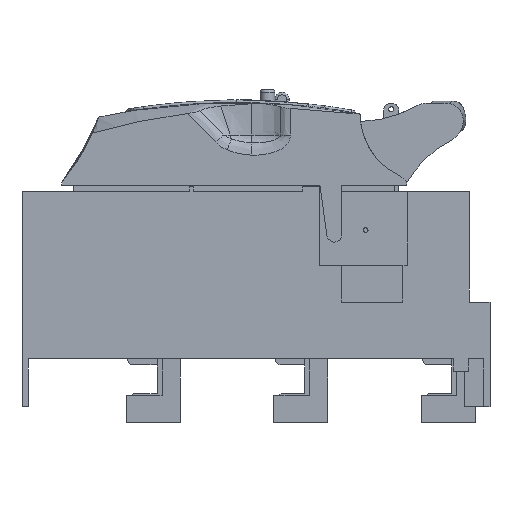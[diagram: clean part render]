
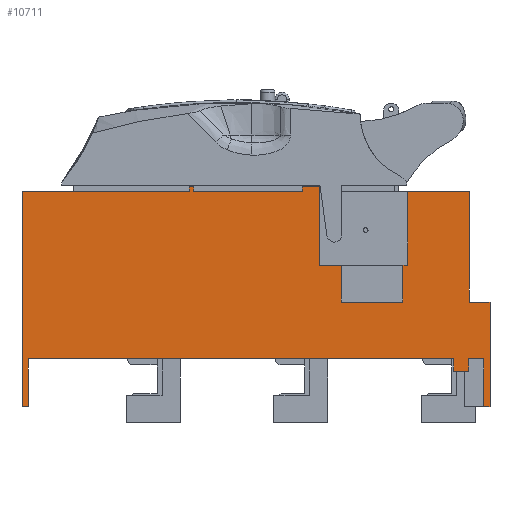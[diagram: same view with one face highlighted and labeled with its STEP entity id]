
A CAD part, front view. The second image highlights one B-rep face of the part: STEP entity #10711.
In plain terms, the highlighted planar face has unit normal (0, -1, 0).
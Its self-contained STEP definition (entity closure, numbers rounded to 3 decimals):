
#8563=FACE_OUTER_BOUND('',#12767,.T.);
#9753=PLANE('',#30881);
#10711=ADVANCED_FACE('',(#8563),#9753,.F.);
#12767=EDGE_LOOP('',(#17968,#17969,#17970,#17971,#17972,#17973,#17974,#17975,
#17976,#17977,#17978,#17979,#17980,#17981,#17982,#17983,#17984,#17985,#17986,
#17987,#17988,#17989,#17990,#17991,#17992,#17993,#17994,#17995));
#14054=LINE('',#39794,#15699);
#14060=LINE('',#39806,#15705);
#14143=LINE('',#39977,#15788);
#14145=LINE('',#39981,#15790);
#14146=LINE('',#39983,#15791);
#14147=LINE('',#39985,#15792);
#14148=LINE('',#39986,#15793);
#14149=LINE('',#39988,#15794);
#14150=LINE('',#39990,#15795);
#14151=LINE('',#39992,#15796);
#14152=LINE('',#39994,#15797);
#14153=LINE('',#39996,#15798);
#14154=LINE('',#39998,#15799);
#14155=LINE('',#40000,#15800);
#14156=LINE('',#40002,#15801);
#14157=LINE('',#40004,#15802);
#14158=LINE('',#40006,#15803);
#14159=LINE('',#40008,#15804);
#14160=LINE('',#40010,#15805);
#14161=LINE('',#40012,#15806);
#14162=LINE('',#40014,#15807);
#14163=LINE('',#40016,#15808);
#14164=LINE('',#40018,#15809);
#14165=LINE('',#40020,#15810);
#14166=LINE('',#40022,#15811);
#14167=LINE('',#40024,#15812);
#14168=LINE('',#40026,#15813);
#14169=LINE('',#40028,#15814);
#15699=VECTOR('',#32850,1.);
#15705=VECTOR('',#32856,1.);
#15788=VECTOR('',#32991,1.);
#15790=VECTOR('',#32995,1.);
#15791=VECTOR('',#32996,1.);
#15792=VECTOR('',#32997,1.);
#15793=VECTOR('',#32998,1.);
#15794=VECTOR('',#32999,1.);
#15795=VECTOR('',#33000,1.);
#15796=VECTOR('',#33001,1.);
#15797=VECTOR('',#33002,1.);
#15798=VECTOR('',#33003,1.);
#15799=VECTOR('',#33004,1.);
#15800=VECTOR('',#33005,1.);
#15801=VECTOR('',#33006,1.);
#15802=VECTOR('',#33007,1.);
#15803=VECTOR('',#33008,1.);
#15804=VECTOR('',#33009,1.);
#15805=VECTOR('',#33010,1.);
#15806=VECTOR('',#33011,1.);
#15807=VECTOR('',#33012,1.);
#15808=VECTOR('',#33013,1.);
#15809=VECTOR('',#33014,1.);
#15810=VECTOR('',#33015,1.);
#15811=VECTOR('',#33016,1.);
#15812=VECTOR('',#33017,1.);
#15813=VECTOR('',#33018,1.);
#15814=VECTOR('',#33019,1.);
#17968=ORIENTED_EDGE('',*,*,#27077,.T.);
#17969=ORIENTED_EDGE('',*,*,#26992,.T.);
#17970=ORIENTED_EDGE('',*,*,#27079,.F.);
#17971=ORIENTED_EDGE('',*,*,#27080,.F.);
#17972=ORIENTED_EDGE('',*,*,#27081,.T.);
#17973=ORIENTED_EDGE('',*,*,#26986,.T.);
#17974=ORIENTED_EDGE('',*,*,#27082,.F.);
#17975=ORIENTED_EDGE('',*,*,#27083,.F.);
#17976=ORIENTED_EDGE('',*,*,#27084,.F.);
#17977=ORIENTED_EDGE('',*,*,#27085,.F.);
#17978=ORIENTED_EDGE('',*,*,#27086,.F.);
#17979=ORIENTED_EDGE('',*,*,#27087,.F.);
#17980=ORIENTED_EDGE('',*,*,#27088,.F.);
#17981=ORIENTED_EDGE('',*,*,#27089,.T.);
#17982=ORIENTED_EDGE('',*,*,#27090,.T.);
#17983=ORIENTED_EDGE('',*,*,#27091,.F.);
#17984=ORIENTED_EDGE('',*,*,#27092,.T.);
#17985=ORIENTED_EDGE('',*,*,#27093,.T.);
#17986=ORIENTED_EDGE('',*,*,#27094,.T.);
#17987=ORIENTED_EDGE('',*,*,#27095,.T.);
#17988=ORIENTED_EDGE('',*,*,#27096,.T.);
#17989=ORIENTED_EDGE('',*,*,#27097,.F.);
#17990=ORIENTED_EDGE('',*,*,#27098,.F.);
#17991=ORIENTED_EDGE('',*,*,#27099,.T.);
#17992=ORIENTED_EDGE('',*,*,#27100,.T.);
#17993=ORIENTED_EDGE('',*,*,#27101,.F.);
#17994=ORIENTED_EDGE('',*,*,#27102,.F.);
#17995=ORIENTED_EDGE('',*,*,#27103,.F.);
#24706=VERTEX_POINT('',#39793);
#24707=VERTEX_POINT('',#39795);
#24712=VERTEX_POINT('',#39805);
#24713=VERTEX_POINT('',#39807);
#24775=VERTEX_POINT('',#39978);
#24776=VERTEX_POINT('',#39982);
#24777=VERTEX_POINT('',#39984);
#24778=VERTEX_POINT('',#39987);
#24779=VERTEX_POINT('',#39989);
#24780=VERTEX_POINT('',#39991);
#24781=VERTEX_POINT('',#39993);
#24782=VERTEX_POINT('',#39995);
#24783=VERTEX_POINT('',#39997);
#24784=VERTEX_POINT('',#39999);
#24785=VERTEX_POINT('',#40001);
#24786=VERTEX_POINT('',#40003);
#24787=VERTEX_POINT('',#40005);
#24788=VERTEX_POINT('',#40007);
#24789=VERTEX_POINT('',#40009);
#24790=VERTEX_POINT('',#40011);
#24791=VERTEX_POINT('',#40013);
#24792=VERTEX_POINT('',#40015);
#24793=VERTEX_POINT('',#40017);
#24794=VERTEX_POINT('',#40019);
#24795=VERTEX_POINT('',#40021);
#24796=VERTEX_POINT('',#40023);
#24797=VERTEX_POINT('',#40025);
#24798=VERTEX_POINT('',#40027);
#26986=EDGE_CURVE('',#24707,#24706,#14054,.T.);
#26992=EDGE_CURVE('',#24713,#24712,#14060,.T.);
#27077=EDGE_CURVE('',#24775,#24713,#14143,.T.);
#27079=EDGE_CURVE('',#24776,#24712,#14145,.T.);
#27080=EDGE_CURVE('',#24777,#24776,#14146,.T.);
#27081=EDGE_CURVE('',#24777,#24707,#14147,.T.);
#27082=EDGE_CURVE('',#24778,#24706,#14148,.T.);
#27083=EDGE_CURVE('',#24779,#24778,#14149,.T.);
#27084=EDGE_CURVE('',#24780,#24779,#14150,.T.);
#27085=EDGE_CURVE('',#24781,#24780,#14151,.T.);
#27086=EDGE_CURVE('',#24782,#24781,#14152,.T.);
#27087=EDGE_CURVE('',#24783,#24782,#14153,.T.);
#27088=EDGE_CURVE('',#24784,#24783,#14154,.T.);
#27089=EDGE_CURVE('',#24784,#24785,#14155,.T.);
#27090=EDGE_CURVE('',#24785,#24786,#14156,.T.);
#27091=EDGE_CURVE('',#24787,#24786,#14157,.T.);
#27092=EDGE_CURVE('',#24787,#24788,#14158,.T.);
#27093=EDGE_CURVE('',#24788,#24789,#14159,.T.);
#27094=EDGE_CURVE('',#24789,#24790,#14160,.T.);
#27095=EDGE_CURVE('',#24790,#24791,#14161,.T.);
#27096=EDGE_CURVE('',#24791,#24792,#14162,.T.);
#27097=EDGE_CURVE('',#24793,#24792,#14163,.T.);
#27098=EDGE_CURVE('',#24794,#24793,#14164,.T.);
#27099=EDGE_CURVE('',#24794,#24795,#14165,.T.);
#27100=EDGE_CURVE('',#24795,#24796,#14166,.T.);
#27101=EDGE_CURVE('',#24797,#24796,#14167,.T.);
#27102=EDGE_CURVE('',#24798,#24797,#14168,.T.);
#27103=EDGE_CURVE('',#24775,#24798,#14169,.T.);
#30881=AXIS2_PLACEMENT_3D('',#40029,#33020,#33021);
#32850=DIRECTION('',(1.,0.,0.));
#32856=DIRECTION('',(1.,0.,0.));
#32991=DIRECTION('',(0.,0.,1.));
#32995=DIRECTION('',(0.,0.,1.));
#32996=DIRECTION('',(-1.,0.,0.));
#32997=DIRECTION('',(0.,0.,1.));
#32998=DIRECTION('',(0.,0.,1.));
#32999=DIRECTION('',(-1.,0.,0.));
#33000=DIRECTION('',(0.,0.,-1.));
#33001=DIRECTION('',(1.,0.,0.));
#33002=DIRECTION('',(0.,0.,-1.));
#33003=DIRECTION('',(1.,0.,0.));
#33004=DIRECTION('',(0.,0.,1.));
#33005=DIRECTION('',(-1.,0.,0.));
#33006=DIRECTION('',(0.,0.,-1.));
#33007=DIRECTION('',(1.,0.,0.));
#33008=DIRECTION('',(0.,0.,1.));
#33009=DIRECTION('',(-1.,0.,0.));
#33010=DIRECTION('',(0.,0.,1.));
#33011=DIRECTION('',(-1.,0.,0.));
#33012=DIRECTION('',(0.,0.,-1.));
#33013=DIRECTION('',(1.,0.,0.));
#33014=DIRECTION('',(0.,0.,-1.));
#33015=DIRECTION('',(-1.,0.,0.));
#33016=DIRECTION('',(0.,0.,-1.));
#33017=DIRECTION('',(1.,0.,0.));
#33018=DIRECTION('',(0.,0.,1.));
#33019=DIRECTION('',(-1.,0.,0.));
#33020=DIRECTION('',(0.,1.,0.));
#33021=DIRECTION('',(0.,0.,1.));
#39793=CARTESIAN_POINT('',(157.087,-44.481,0.));
#39794=CARTESIAN_POINT('',(-0.413,-44.481,0.));
#39795=CARTESIAN_POINT('',(150.887,-44.481,0.));
#39805=CARTESIAN_POINT('',(144.887,-44.481,0.));
#39806=CARTESIAN_POINT('',(-0.413,-44.481,0.));
#39807=CARTESIAN_POINT('',(-28.313,-44.481,0.));
#39977=CARTESIAN_POINT('',(-28.313,-44.481,-19.5));
#39978=CARTESIAN_POINT('',(-28.313,-44.481,-19.5));
#39981=CARTESIAN_POINT('',(144.887,-44.481,-5.));
#39982=CARTESIAN_POINT('',(144.887,-44.481,-5.));
#39983=CARTESIAN_POINT('',(144.887,-44.481,-5.));
#39984=CARTESIAN_POINT('',(150.887,-44.481,-5.));
#39985=CARTESIAN_POINT('',(150.887,-44.481,-5.));
#39986=CARTESIAN_POINT('',(157.087,-44.481,-74.983));
#39987=CARTESIAN_POINT('',(157.087,-44.481,-19.5));
#39988=CARTESIAN_POINT('',(157.087,-44.481,-19.5));
#39989=CARTESIAN_POINT('',(159.587,-44.481,-19.5));
#39990=CARTESIAN_POINT('',(159.587,-44.481,23.1));
#39991=CARTESIAN_POINT('',(159.587,-44.481,23.1));
#39992=CARTESIAN_POINT('',(-0.413,-44.481,23.1));
#39993=CARTESIAN_POINT('',(151.087,-44.481,23.1));
#39994=CARTESIAN_POINT('',(151.087,-44.481,68.1));
#39995=CARTESIAN_POINT('',(151.087,-44.481,68.1));
#39996=CARTESIAN_POINT('',(151.087,-44.481,68.1));
#39997=CARTESIAN_POINT('',(126.087,-44.481,68.1));
#39998=CARTESIAN_POINT('',(126.087,-44.481,68.1));
#39999=CARTESIAN_POINT('',(126.087,-44.481,38.1));
#40000=CARTESIAN_POINT('',(126.087,-44.481,38.1));
#40001=CARTESIAN_POINT('',(124.087,-44.481,38.1));
#40002=CARTESIAN_POINT('',(124.087,-44.481,38.1));
#40003=CARTESIAN_POINT('',(124.087,-44.481,23.1));
#40004=CARTESIAN_POINT('',(-0.413,-44.481,23.1));
#40005=CARTESIAN_POINT('',(99.087,-44.481,23.1));
#40006=CARTESIAN_POINT('',(99.087,-44.481,38.1));
#40007=CARTESIAN_POINT('',(99.087,-44.481,38.1));
#40008=CARTESIAN_POINT('',(126.087,-44.481,38.1));
#40009=CARTESIAN_POINT('',(90.087,-44.481,38.1));
#40010=CARTESIAN_POINT('',(90.087,-44.481,68.1));
#40011=CARTESIAN_POINT('',(90.087,-44.481,70.1));
#40012=CARTESIAN_POINT('',(90.087,-44.481,70.1));
#40013=CARTESIAN_POINT('',(83.087,-44.481,70.1));
#40014=CARTESIAN_POINT('',(83.087,-44.481,70.1));
#40015=CARTESIAN_POINT('',(83.087,-44.481,68.1));
#40016=CARTESIAN_POINT('',(126.087,-44.481,68.1));
#40017=CARTESIAN_POINT('',(39.087,-44.481,68.1));
#40018=CARTESIAN_POINT('',(39.087,-44.481,70.1));
#40019=CARTESIAN_POINT('',(39.087,-44.481,70.1));
#40020=CARTESIAN_POINT('',(37.087,-44.481,70.1));
#40021=CARTESIAN_POINT('',(37.087,-44.481,70.1));
#40022=CARTESIAN_POINT('',(37.087,-44.481,70.1));
#40023=CARTESIAN_POINT('',(37.087,-44.481,68.1));
#40024=CARTESIAN_POINT('',(126.087,-44.481,68.1));
#40025=CARTESIAN_POINT('',(-30.913,-44.481,68.1));
#40026=CARTESIAN_POINT('',(-30.913,-44.481,20.5));
#40027=CARTESIAN_POINT('',(-30.913,-44.481,-19.5));
#40028=CARTESIAN_POINT('',(-30.913,-44.481,-19.5));
#40029=CARTESIAN_POINT('',(-0.413,-44.481,23.1));
